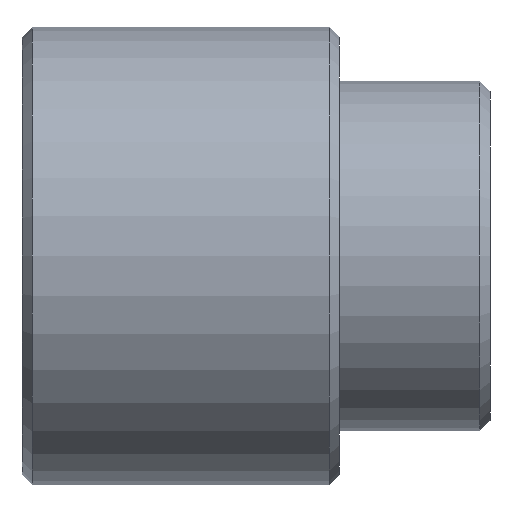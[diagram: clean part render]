
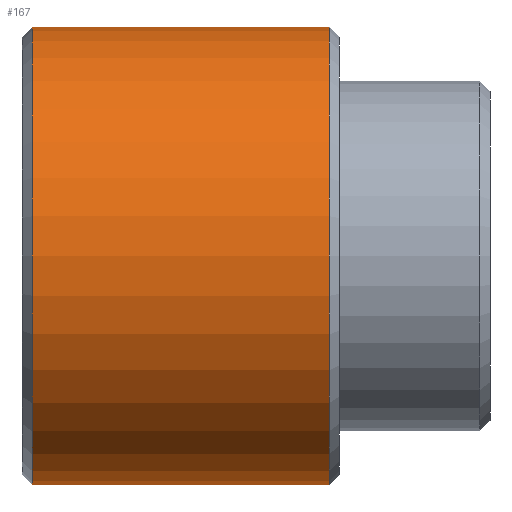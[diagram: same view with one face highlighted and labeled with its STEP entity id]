
A CAD part, left-side view. The second image highlights one B-rep face of the part: STEP entity #167.
In plain terms, the highlighted cylindrical face has radius 2.25 mm (diameter 4.5 mm), a partial arc.
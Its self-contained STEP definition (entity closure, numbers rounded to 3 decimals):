
#20 = ORIENTED_EDGE ( 'NONE', *, *, #429, .T. ) ;
#29 = CIRCLE ( 'NONE', #253, 2.25 ) ;
#44 = CARTESIAN_POINT ( 'NONE',  ( 0., -0.1, -2.25 ) ) ;
#48 = VERTEX_POINT ( 'NONE', #44 ) ;
#62 = CARTESIAN_POINT ( 'NONE',  ( 0., -0.1, 2.25 ) ) ;
#78 = AXIS2_PLACEMENT_3D ( 'NONE', #386, #319, #214 ) ;
#84 = VECTOR ( 'NONE', #355, 1000. ) ;
#133 = EDGE_CURVE ( 'NONE', #213, #48, #29, .T. ) ;
#142 = CARTESIAN_POINT ( 'NONE',  ( 0., -3.02, 2.25 ) ) ;
#145 = ORIENTED_EDGE ( 'NONE', *, *, #133, .T. ) ;
#146 = CARTESIAN_POINT ( 'NONE',  ( 0., -3.02, -2.25 ) ) ;
#157 = AXIS2_PLACEMENT_3D ( 'NONE', #413, #230, #204 ) ;
#166 = DIRECTION ( 'NONE',  ( 0., 0., 1. ) ) ;
#167 = ADVANCED_FACE ( 'NONE', ( #288 ), #418, .T. ) ;
#171 = CARTESIAN_POINT ( 'NONE',  ( 0., -3.12, -2.25 ) ) ;
#195 = CIRCLE ( 'NONE', #78, 2.25 ) ;
#198 = DIRECTION ( 'NONE',  ( 0., -1., 0. ) ) ;
#204 = DIRECTION ( 'NONE',  ( 0., 0., 1. ) ) ;
#213 = VERTEX_POINT ( 'NONE', #62 ) ;
#214 = DIRECTION ( 'NONE',  ( 0., 0., 1. ) ) ;
#219 = ORIENTED_EDGE ( 'NONE', *, *, #368, .T. ) ;
#222 = EDGE_CURVE ( 'NONE', #433, #48, #257, .T. ) ;
#230 = DIRECTION ( 'NONE',  ( 0., 1., 0. ) ) ;
#251 = CARTESIAN_POINT ( 'NONE',  ( 0., -3.12, 2.25 ) ) ;
#253 = AXIS2_PLACEMENT_3D ( 'NONE', #373, #198, #166 ) ;
#257 = LINE ( 'NONE', #171, #84 ) ;
#264 = VERTEX_POINT ( 'NONE', #142 ) ;
#265 = VECTOR ( 'NONE', #317, 1000. ) ;
#288 = FACE_OUTER_BOUND ( 'NONE', #417, .T. ) ;
#317 = DIRECTION ( 'NONE',  ( 0., 1., 0. ) ) ;
#319 = DIRECTION ( 'NONE',  ( 0., 1., 0. ) ) ;
#355 = DIRECTION ( 'NONE',  ( 0., 1., 0. ) ) ;
#368 = EDGE_CURVE ( 'NONE', #264, #213, #369, .T. ) ;
#369 = LINE ( 'NONE', #251, #265 ) ;
#373 = CARTESIAN_POINT ( 'NONE',  ( 0., -0.1, 0. ) ) ;
#386 = CARTESIAN_POINT ( 'NONE',  ( 0., -3.02, 0. ) ) ;
#413 = CARTESIAN_POINT ( 'NONE',  ( 0., -3.12, 0. ) ) ;
#417 = EDGE_LOOP ( 'NONE', ( #427, #20, #219, #145 ) ) ;
#418 = CYLINDRICAL_SURFACE ( 'NONE', #157, 2.25 ) ;
#427 = ORIENTED_EDGE ( 'NONE', *, *, #222, .F. ) ;
#429 = EDGE_CURVE ( 'NONE', #433, #264, #195, .T. ) ;
#433 = VERTEX_POINT ( 'NONE', #146 ) ;
